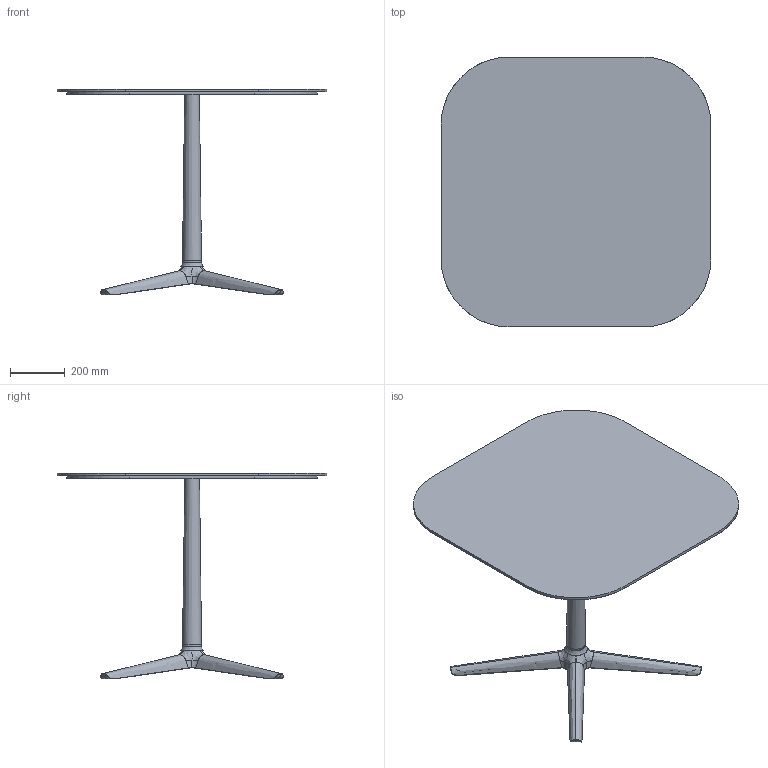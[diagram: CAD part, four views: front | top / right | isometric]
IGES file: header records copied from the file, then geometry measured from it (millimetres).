
Global section: file name: C:\Users\rendering\Desktop\3d host\CONSEGNA\Multiplo_3d_Antonio Citterio_Kartell.igs; native system: Rhinoceros ( May 22 2017 ); preprocessor: Trout Lake IGES 012 May 22 2017; date: 171018.093631; units: millimetre
Bounding box: 990 x 990 x 755.15 mm (x, y, z)
Surface area: 4126971.3 mm2 (no closed solid volume)
Topology: 0 solids, 0 shells, 327 faces, 3246 edges, 3238 vertices
Faces by surface type: bspline 327
